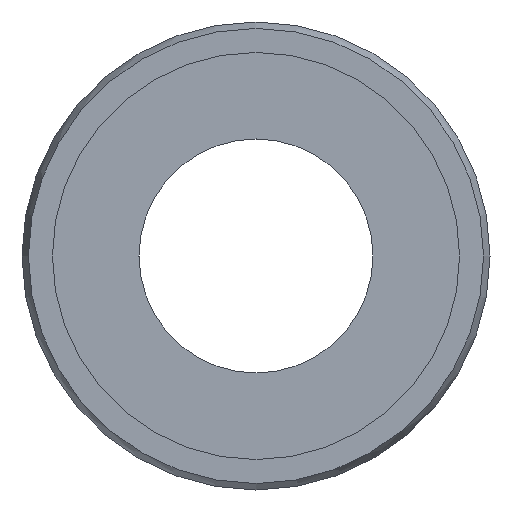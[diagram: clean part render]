
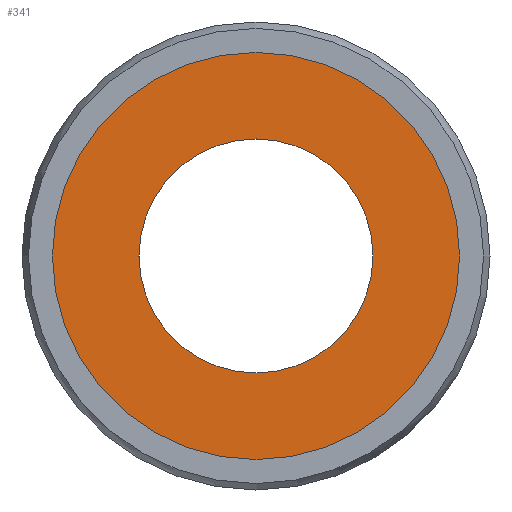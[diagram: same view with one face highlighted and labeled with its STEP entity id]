
A CAD part, left-side view. The second image highlights one B-rep face of the part: STEP entity #341.
In plain terms, the highlighted planar face has unit normal (-1, 0, 0).
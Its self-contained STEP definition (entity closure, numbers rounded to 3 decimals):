
#307=CARTESIAN_POINT('',(0.1,0.0,4.35));
#308=VERTEX_POINT('',#307);
#309=CARTESIAN_POINT('',(0.1,0.0,0.));
#310=DIRECTION('',(-1.0,0.0,0.0));
#311=DIRECTION('',(0.0,0.0,1.0));
#312=AXIS2_PLACEMENT_3D('',#309,#310,#311);
#313=CIRCLE('',#312,4.35);
#314=EDGE_CURVE('',#308,#308,#313,.T.);
#322=CARTESIAN_POINT('',(0.1,0.0,3.425));
#323=DIRECTION('',(-1.0,0.0,0.0));
#324=DIRECTION('',(0.0,0.0,1.0));
#325=AXIS2_PLACEMENT_3D('',#322,#323,#324);
#326=PLANE('',#325);
#327=ORIENTED_EDGE('',*,*,#314,.T.);
#328=EDGE_LOOP('',(#327));
#329=FACE_OUTER_BOUND('',#328,.T.);
#330=CARTESIAN_POINT('',(0.1,0.0,2.5));
#331=VERTEX_POINT('',#330);
#332=CARTESIAN_POINT('',(0.1,0.0,0.));
#333=DIRECTION('',(-1.0,0.0,0.0));
#334=DIRECTION('',(0.0,0.0,1.0));
#335=AXIS2_PLACEMENT_3D('',#332,#333,#334);
#336=CIRCLE('',#335,2.5);
#337=EDGE_CURVE('',#331,#331,#336,.T.);
#338=ORIENTED_EDGE('',*,*,#337,.F.);
#339=EDGE_LOOP('',(#338));
#340=FACE_BOUND('',#339,.T.);
#341=ADVANCED_FACE('',(#329,#340),#326,.T.);
